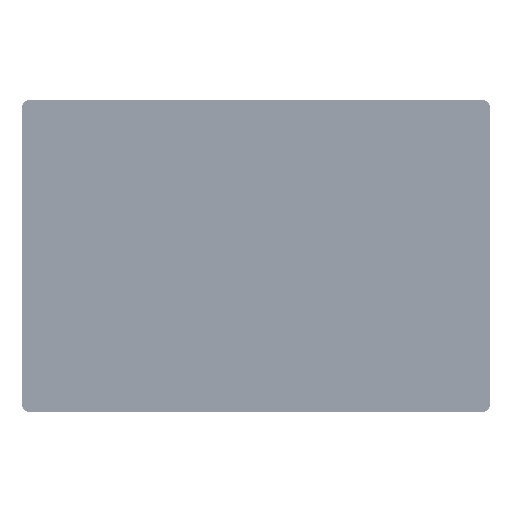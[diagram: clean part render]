
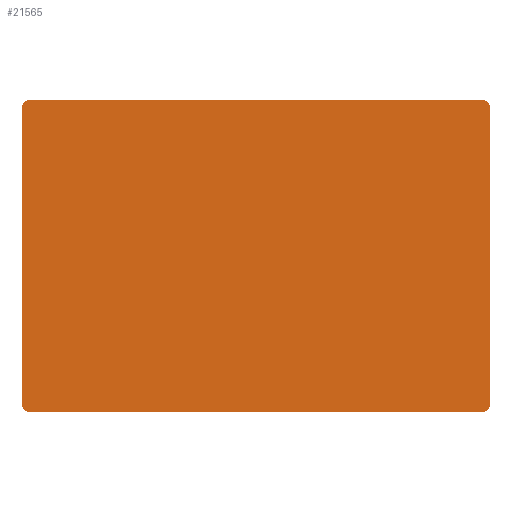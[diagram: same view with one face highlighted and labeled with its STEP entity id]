
A CAD part, front view. The second image highlights one B-rep face of the part: STEP entity #21565.
In plain terms, the highlighted planar face has unit normal (0, -1, 0).
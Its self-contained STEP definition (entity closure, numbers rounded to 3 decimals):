
#61 = ORIENTED_EDGE ( 'NONE', *, *, #60634, .F. ) ;
#405 = ORIENTED_EDGE ( 'NONE', *, *, #38498, .T. ) ;
#2128 = DIRECTION ( 'NONE',  ( 0., 0., -1. ) ) ;
#2560 = DIRECTION ( 'NONE',  ( 0., 0., 1. ) ) ;
#2644 = FACE_OUTER_BOUND ( 'NONE', #9786, .T. ) ;
#3064 = ORIENTED_EDGE ( 'NONE', *, *, #15432, .T. ) ;
#3400 = DIRECTION ( 'NONE',  ( 0., -1., 0. ) ) ;
#3501 = AXIS2_PLACEMENT_3D ( 'NONE', #35271, #21774, #2128 ) ;
#3806 = CARTESIAN_POINT ( 'NONE',  ( -435., 0., -285. ) ) ;
#4288 = DIRECTION ( 'NONE',  ( -1., 0., 0. ) ) ;
#4420 = CARTESIAN_POINT ( 'NONE',  ( 450., 0., -285. ) ) ;
#6516 = CARTESIAN_POINT ( 'NONE',  ( -435., 0., -300. ) ) ;
#6607 = CARTESIAN_POINT ( 'NONE',  ( 435., 0., -285. ) ) ;
#6820 = EDGE_CURVE ( 'NONE', #23588, #16598, #29777, .T. ) ;
#9786 = EDGE_LOOP ( 'NONE', ( #54855, #50326, #32028, #34491, #55565, #405, #61, #3064 ) ) ;
#12117 = PLANE ( 'NONE',  #3501 ) ;
#15432 = EDGE_CURVE ( 'NONE', #40097, #21140, #34699, .T. ) ;
#16479 = CARTESIAN_POINT ( 'NONE',  ( -450., 0., 300. ) ) ;
#16598 = VERTEX_POINT ( 'NONE', #53581 ) ;
#17304 = CARTESIAN_POINT ( 'NONE',  ( 435., 0., 285. ) ) ;
#18717 = DIRECTION ( 'NONE',  ( 0., -1., 0. ) ) ;
#19995 = VECTOR ( 'NONE', #20951, 1000. ) ;
#20951 = DIRECTION ( 'NONE',  ( 1., 0., 0. ) ) ;
#21140 = VERTEX_POINT ( 'NONE', #4420 ) ;
#21421 = CIRCLE ( 'NONE', #26280, 15. ) ;
#21565 = ADVANCED_FACE ( 'NONE', ( #2644 ), #12117, .T. ) ;
#21621 = DIRECTION ( 'NONE',  ( 0., -1., 0. ) ) ;
#21774 = DIRECTION ( 'NONE',  ( 0., -1., 0. ) ) ;
#22364 = CARTESIAN_POINT ( 'NONE',  ( -450., 0., 285. ) ) ;
#23588 = VERTEX_POINT ( 'NONE', #42852 ) ;
#24053 = EDGE_CURVE ( 'NONE', #56306, #16598, #60429, .T. ) ;
#26280 = AXIS2_PLACEMENT_3D ( 'NONE', #46211, #18717, #27539 ) ;
#26879 = CARTESIAN_POINT ( 'NONE',  ( -435., 0., 300. ) ) ;
#26967 = CARTESIAN_POINT ( 'NONE',  ( 435., 0., -300. ) ) ;
#27539 = DIRECTION ( 'NONE',  ( 0., 0., -1. ) ) ;
#29429 = CARTESIAN_POINT ( 'NONE',  ( 450., 0., 300. ) ) ;
#29777 = CIRCLE ( 'NONE', #48805, 15. ) ;
#30421 = CARTESIAN_POINT ( 'NONE',  ( -450., 0., -285. ) ) ;
#31456 = DIRECTION ( 'NONE',  ( 0., 0., -1. ) ) ;
#32028 = ORIENTED_EDGE ( 'NONE', *, *, #24053, .F. ) ;
#34491 = ORIENTED_EDGE ( 'NONE', *, *, #38513, .T. ) ;
#34699 = CIRCLE ( 'NONE', #44455, 15. ) ;
#35271 = CARTESIAN_POINT ( 'NONE',  ( 0., 0., 0. ) ) ;
#37232 = CARTESIAN_POINT ( 'NONE',  ( -450., 0., -300. ) ) ;
#38498 = EDGE_CURVE ( 'NONE', #51655, #57762, #45651, .T. ) ;
#38513 = EDGE_CURVE ( 'NONE', #56306, #54726, #21421, .T. ) ;
#38627 = VECTOR ( 'NONE', #39053, 1000. ) ;
#39053 = DIRECTION ( 'NONE',  ( 0., 0., -1. ) ) ;
#40097 = VERTEX_POINT ( 'NONE', #26967 ) ;
#42653 = VECTOR ( 'NONE', #2560, 1000. ) ;
#42852 = CARTESIAN_POINT ( 'NONE',  ( 450., 0., 285. ) ) ;
#43191 = LINE ( 'NONE', #37232, #45391 ) ;
#44455 = AXIS2_PLACEMENT_3D ( 'NONE', #6607, #58141, #48878 ) ;
#45391 = VECTOR ( 'NONE', #4288, 1000. ) ;
#45651 = CIRCLE ( 'NONE', #60938, 15. ) ;
#46211 = CARTESIAN_POINT ( 'NONE',  ( -435., 0., 285. ) ) ;
#48805 = AXIS2_PLACEMENT_3D ( 'NONE', #17304, #21621, #55068 ) ;
#48878 = DIRECTION ( 'NONE',  ( 0., 0., -1. ) ) ;
#50326 = ORIENTED_EDGE ( 'NONE', *, *, #6820, .T. ) ;
#51153 = LINE ( 'NONE', #29429, #38627 ) ;
#51655 = VERTEX_POINT ( 'NONE', #30421 ) ;
#51845 = EDGE_CURVE ( 'NONE', #51655, #54726, #55158, .T. ) ;
#53581 = CARTESIAN_POINT ( 'NONE',  ( 435., 0., 300. ) ) ;
#54726 = VERTEX_POINT ( 'NONE', #22364 ) ;
#54855 = ORIENTED_EDGE ( 'NONE', *, *, #55553, .F. ) ;
#55068 = DIRECTION ( 'NONE',  ( 0., 0., -1. ) ) ;
#55158 = LINE ( 'NONE', #16479, #42653 ) ;
#55553 = EDGE_CURVE ( 'NONE', #23588, #21140, #51153, .T. ) ;
#55565 = ORIENTED_EDGE ( 'NONE', *, *, #51845, .F. ) ;
#56306 = VERTEX_POINT ( 'NONE', #26879 ) ;
#57762 = VERTEX_POINT ( 'NONE', #6516 ) ;
#58141 = DIRECTION ( 'NONE',  ( 0., -1., 0. ) ) ;
#58321 = CARTESIAN_POINT ( 'NONE',  ( -450., 0., 300. ) ) ;
#60429 = LINE ( 'NONE', #58321, #19995 ) ;
#60634 = EDGE_CURVE ( 'NONE', #40097, #57762, #43191, .T. ) ;
#60938 = AXIS2_PLACEMENT_3D ( 'NONE', #3806, #3400, #31456 ) ;
